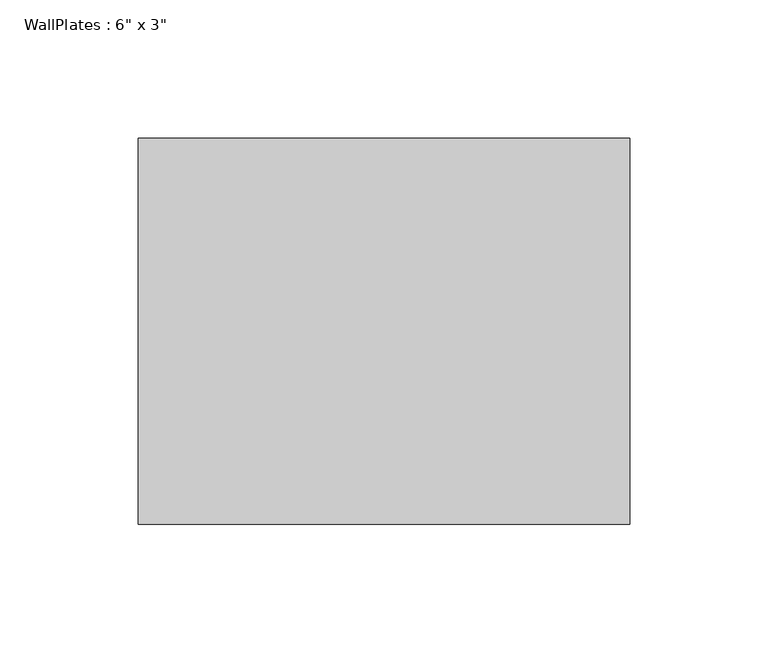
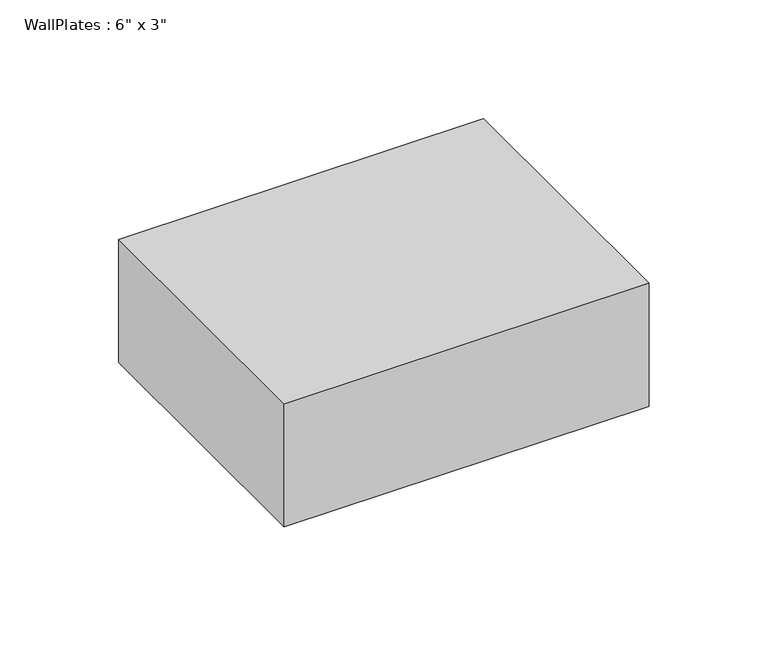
"""IFC4 building model written with IfcOpenShell, lengths in millimetres: beam geometry."""

from ifc_helpers import new_model, si_unit, frame, origin, place, context, project, spatial, polyline, outline, extrude, source, transform, mapped, element, save


def beam_adc93808(model_context):
    return source(origin(), model_context, "Body", "SweptSolid", [
        extrude(outline(polyline([(-88.9049997, -69.85), (-88.9049997, 69.85), (88.9049997, 69.85), (88.9049997, -69.85), (-88.9049997, -69.85)])), frame((0.0, 0.0, -31.75), z_axis=(0.0, 0.0, 1.0), x_axis=(1.0, 0.0, 0.0)), (0.0, 0.0, 1.0), 63.5),
    ])


if __name__ == "__main__":
    model = new_model("IFC4")
    model_context = context("Model", 3, world=origin())
    ifc_project = project(units=[si_unit("LENGTHUNIT", "METRE", prefix="MILLI")], contexts=[model_context])
    site = spatial("IfcSite", under=ifc_project)
    building = spatial("IfcBuilding", under=site)
    placement = place(None, origin())
    beam_shape = beam_adc93808(model_context)
    element("IfcBeam", 1, ObjectType="WallPlates : 6\" x 3\"", at=placement, inside=building, context=model_context, shape_type="MappedRepresentation", body=[
        mapped(beam_shape, transform((0.0, 0.0, 0.0), x_axis=(1.0, 0.0, 0.0), y_axis=(0.0, 1.0, 0.0), z_axis=(0.0, 0.0, 1.0))),
    ])
    save(model, "model.ifc")
